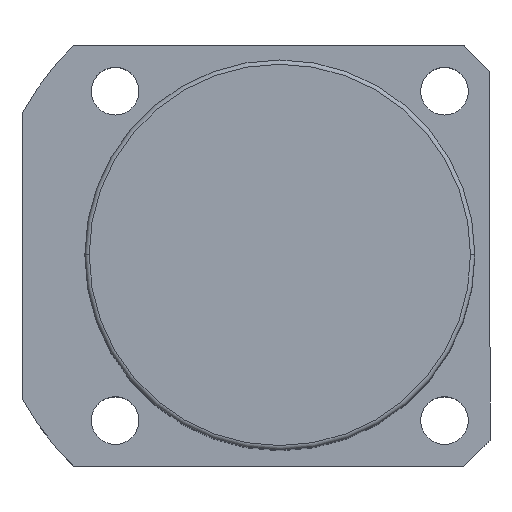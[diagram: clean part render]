
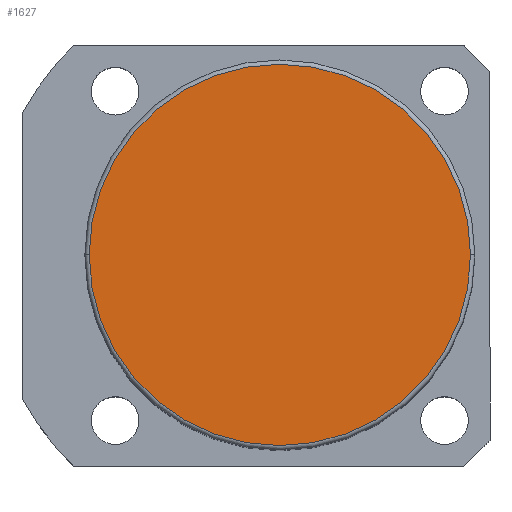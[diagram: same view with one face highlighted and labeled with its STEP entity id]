
A CAD part, top view. The second image highlights one B-rep face of the part: STEP entity #1627.
In plain terms, the highlighted planar face has unit normal (0, 0, 1).
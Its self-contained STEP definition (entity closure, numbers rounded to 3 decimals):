
#12 = CARTESIAN_POINT ( 'NONE',  ( -44., 0., 141.5 ) ) ;
#98 = FACE_OUTER_BOUND ( 'NONE', #102, .T. ) ;
#102 = EDGE_LOOP ( 'NONE', ( #378, #948 ) ) ;
#111 = CARTESIAN_POINT ( 'NONE',  ( 0., 0., 141.5 ) ) ;
#163 = CARTESIAN_POINT ( 'NONE',  ( 44., 0., 141.5 ) ) ;
#224 = EDGE_CURVE ( 'NONE', #796, #670, #1537, .T. ) ;
#243 = DIRECTION ( 'NONE',  ( 0., 0., 1. ) ) ;
#259 = EDGE_CURVE ( 'NONE', #670, #796, #416, .T. ) ;
#373 = AXIS2_PLACEMENT_3D ( 'NONE', #111, #243, #1387 ) ;
#378 = ORIENTED_EDGE ( 'NONE', *, *, #224, .T. ) ;
#416 = CIRCLE ( 'NONE', #569, 44. ) ;
#456 = CARTESIAN_POINT ( 'NONE',  ( 0., 0., 141.5 ) ) ;
#463 = DIRECTION ( 'NONE',  ( 0., 0., 1. ) ) ;
#569 = AXIS2_PLACEMENT_3D ( 'NONE', #1476, #1495, #927 ) ;
#670 = VERTEX_POINT ( 'NONE', #12 ) ;
#771 = AXIS2_PLACEMENT_3D ( 'NONE', #456, #463, #1467 ) ;
#796 = VERTEX_POINT ( 'NONE', #163 ) ;
#927 = DIRECTION ( 'NONE',  ( 1., 0., 0. ) ) ;
#948 = ORIENTED_EDGE ( 'NONE', *, *, #259, .T. ) ;
#1387 = DIRECTION ( 'NONE',  ( 1., 0., 0. ) ) ;
#1467 = DIRECTION ( 'NONE',  ( 1., 0., 0. ) ) ;
#1476 = CARTESIAN_POINT ( 'NONE',  ( 0., 0., 141.5 ) ) ;
#1495 = DIRECTION ( 'NONE',  ( 0., 0., 1. ) ) ;
#1537 = CIRCLE ( 'NONE', #771, 44. ) ;
#1540 = PLANE ( 'NONE',  #373 ) ;
#1627 = ADVANCED_FACE ( 'NONE', ( #98 ), #1540, .T. ) ;
